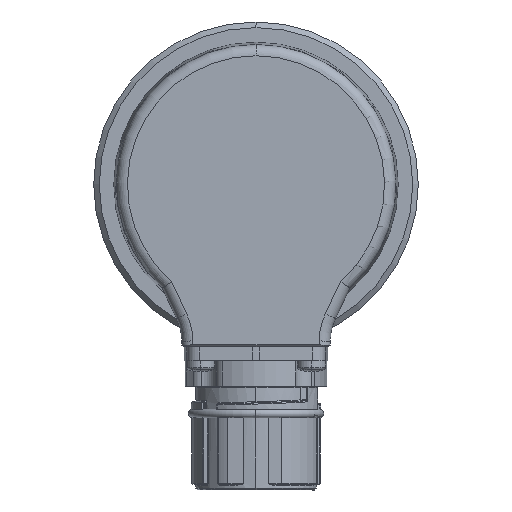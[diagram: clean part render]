
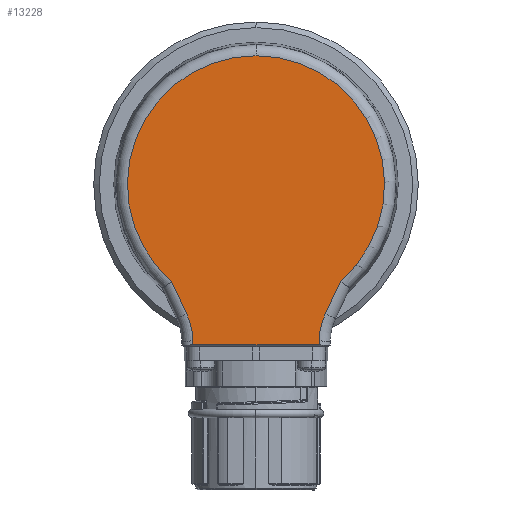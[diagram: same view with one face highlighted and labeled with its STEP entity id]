
A CAD part, left-side view. The second image highlights one B-rep face of the part: STEP entity #13228.
In plain terms, the highlighted planar face has unit normal (-1, 0, 0).
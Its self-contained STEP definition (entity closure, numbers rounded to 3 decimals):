
#265 = DIRECTION ( 'NONE',  ( 0., 0., 1. ) ) ;
#560 = DIRECTION ( 'NONE',  ( 1., 0., 0. ) ) ;
#752 = VERTEX_POINT ( 'NONE', #39887 ) ;
#917 = EDGE_CURVE ( 'NONE', #11258, #34109, #22331, .T. ) ;
#1813 = PLANE ( 'NONE',  #37475 ) ;
#1847 = CARTESIAN_POINT ( 'NONE',  ( -21., -11.752, -0.205 ) ) ;
#1964 = CARTESIAN_POINT ( 'NONE',  ( -21., 0., 0. ) ) ;
#2333 = CARTESIAN_POINT ( 'NONE',  ( -21., -11.268, -27.974 ) ) ;
#2498 = CARTESIAN_POINT ( 'NONE',  ( -21., -15.091, -17.32 ) ) ;
#4499 = ORIENTED_EDGE ( 'NONE', *, *, #10852, .T. ) ;
#4869 = VECTOR ( 'NONE', #18053, 1000. ) ;
#4879 = ORIENTED_EDGE ( 'NONE', *, *, #31691, .T. ) ;
#5134 = VERTEX_POINT ( 'NONE', #14827 ) ;
#6349 = CARTESIAN_POINT ( 'NONE',  ( -21., 15.091, -17.32 ) ) ;
#7963 = VERTEX_POINT ( 'NONE', #12290 ) ;
#8172 = VERTEX_POINT ( 'NONE', #2498 ) ;
#8567 = DIRECTION ( 'NONE',  ( 0., 0., 1. ) ) ;
#8589 = CARTESIAN_POINT ( 'NONE',  ( -21., -14.953, -17.615 ) ) ;
#10142 = DIRECTION ( 'NONE',  ( 0., -0.017, -1. ) ) ;
#10852 = EDGE_CURVE ( 'NONE', #7963, #35672, #30256, .T. ) ;
#10958 = DIRECTION ( 'NONE',  ( -1., 0., 0. ) ) ;
#11098 = CARTESIAN_POINT ( 'NONE',  ( -21., 0., 0. ) ) ;
#11223 = VECTOR ( 'NONE', #25101, 1000. ) ;
#11258 = VERTEX_POINT ( 'NONE', #23208 ) ;
#11357 = AXIS2_PLACEMENT_3D ( 'NONE', #11098, #10958, #8567 ) ;
#12224 = VECTOR ( 'NONE', #10142, 1000. ) ;
#12290 = CARTESIAN_POINT ( 'NONE',  ( -21., 12.39, -23.112 ) ) ;
#12482 = EDGE_CURVE ( 'NONE', #8172, #752, #19256, .T. ) ;
#13091 = DIRECTION ( 'NONE',  ( -1., 0., 0. ) ) ;
#13222 = LINE ( 'NONE', #29163, #12224 ) ;
#13228 = ADVANCED_FACE ( 'NONE', ( #23674 ), #1813, .F. ) ;
#13634 = ORIENTED_EDGE ( 'NONE', *, *, #917, .T. ) ;
#13728 = ORIENTED_EDGE ( 'NONE', *, *, #12482, .T. ) ;
#13970 = EDGE_CURVE ( 'NONE', #34754, #7963, #28108, .T. ) ;
#14827 = CARTESIAN_POINT ( 'NONE',  ( -21., 11.255, -28.695 ) ) ;
#14952 = CARTESIAN_POINT ( 'NONE',  ( -21., 11.268, -27.974 ) ) ;
#16827 = DIRECTION ( 'NONE',  ( 0., 0., 1. ) ) ;
#16856 = DIRECTION ( 'NONE',  ( 1., 0., 0. ) ) ;
#16999 = CARTESIAN_POINT ( 'NONE',  ( -21., 23.266, -28.183 ) ) ;
#17211 = EDGE_LOOP ( 'NONE', ( #4879, #25041, #13634, #37435, #39052, #13728, #23662, #28944, #4499 ) ) ;
#17804 = CARTESIAN_POINT ( 'NONE',  ( -21., -23.266, -28.183 ) ) ;
#18053 = DIRECTION ( 'NONE',  ( 0., -0.423, 0.906 ) ) ;
#19256 = CIRCLE ( 'NONE', #11357, 22.972 ) ;
#19522 = CIRCLE ( 'NONE', #33206, 22.972 ) ;
#21022 = DIRECTION ( 'NONE',  ( 0., 0., 1. ) ) ;
#22331 = LINE ( 'NONE', #1847, #29770 ) ;
#22339 = EDGE_CURVE ( 'NONE', #5134, #11258, #32459, .T. ) ;
#22967 = VECTOR ( 'NONE', #40714, 1000. ) ;
#23184 = DIRECTION ( 'NONE',  ( 0., -0.017, 1. ) ) ;
#23208 = CARTESIAN_POINT ( 'NONE',  ( -21., -11.255, -28.695 ) ) ;
#23662 = ORIENTED_EDGE ( 'NONE', *, *, #41007, .T. ) ;
#23674 = FACE_OUTER_BOUND ( 'NONE', #17211, .T. ) ;
#25041 = ORIENTED_EDGE ( 'NONE', *, *, #22339, .T. ) ;
#25101 = DIRECTION ( 'NONE',  ( 0., -0.423, -0.906 ) ) ;
#26550 = CARTESIAN_POINT ( 'NONE',  ( -21., 12.39, -23.112 ) ) ;
#28108 = LINE ( 'NONE', #26550, #11223 ) ;
#28944 = ORIENTED_EDGE ( 'NONE', *, *, #13970, .T. ) ;
#29163 = CARTESIAN_POINT ( 'NONE',  ( -21., 11.752, -0.205 ) ) ;
#29770 = VECTOR ( 'NONE', #23184, 1000. ) ;
#30256 = CIRCLE ( 'NONE', #34005, 12. ) ;
#31691 = EDGE_CURVE ( 'NONE', #35672, #5134, #13222, .T. ) ;
#32174 = CARTESIAN_POINT ( 'NONE',  ( -21., 0., 0. ) ) ;
#32459 = LINE ( 'NONE', #37528, #22967 ) ;
#32929 = CIRCLE ( 'NONE', #33708, 12. ) ;
#33206 = AXIS2_PLACEMENT_3D ( 'NONE', #32174, #13091, #35362 ) ;
#33406 = EDGE_CURVE ( 'NONE', #34198, #8172, #39710, .T. ) ;
#33708 = AXIS2_PLACEMENT_3D ( 'NONE', #17804, #40029, #21022 ) ;
#34005 = AXIS2_PLACEMENT_3D ( 'NONE', #16999, #16856, #16827 ) ;
#34109 = VERTEX_POINT ( 'NONE', #2333 ) ;
#34198 = VERTEX_POINT ( 'NONE', #38128 ) ;
#34754 = VERTEX_POINT ( 'NONE', #6349 ) ;
#35362 = DIRECTION ( 'NONE',  ( 0., 0., 1. ) ) ;
#35672 = VERTEX_POINT ( 'NONE', #14952 ) ;
#37435 = ORIENTED_EDGE ( 'NONE', *, *, #39490, .T. ) ;
#37475 = AXIS2_PLACEMENT_3D ( 'NONE', #1964, #560, #265 ) ;
#37528 = CARTESIAN_POINT ( 'NONE',  ( -21., -11.25, -28.695 ) ) ;
#38128 = CARTESIAN_POINT ( 'NONE',  ( -21., -12.39, -23.112 ) ) ;
#39052 = ORIENTED_EDGE ( 'NONE', *, *, #33406, .T. ) ;
#39490 = EDGE_CURVE ( 'NONE', #34109, #34198, #32929, .T. ) ;
#39710 = LINE ( 'NONE', #8589, #4869 ) ;
#39887 = CARTESIAN_POINT ( 'NONE',  ( -21., 0., 22.972 ) ) ;
#40029 = DIRECTION ( 'NONE',  ( 1., 0., 0. ) ) ;
#40714 = DIRECTION ( 'NONE',  ( 0., -1., 0. ) ) ;
#41007 = EDGE_CURVE ( 'NONE', #752, #34754, #19522, .T. ) ;
